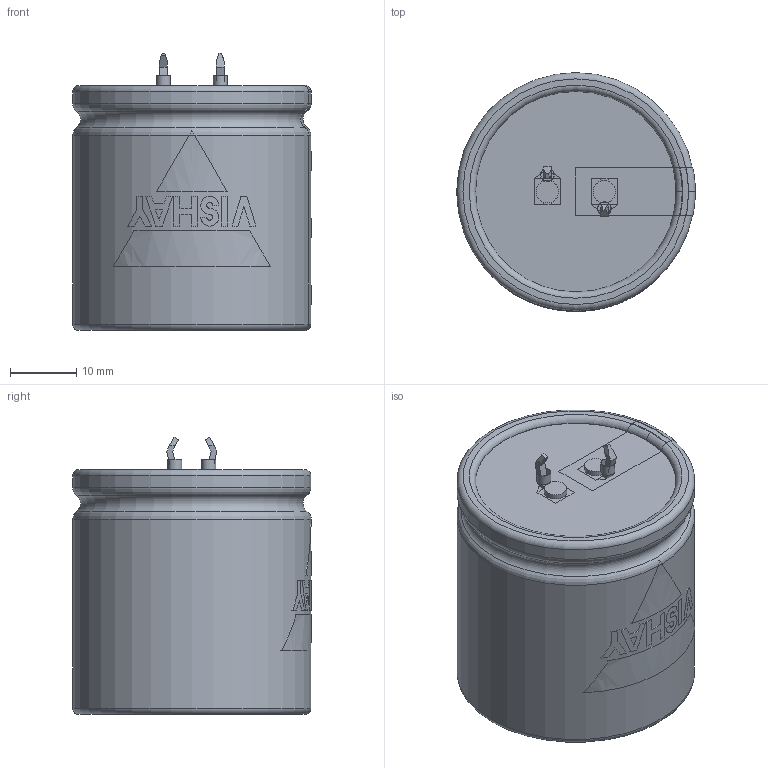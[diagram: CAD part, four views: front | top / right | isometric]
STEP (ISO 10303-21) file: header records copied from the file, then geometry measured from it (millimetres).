
FILE_DESCRIPTION(('FreeCAD Model'),'2;1');
FILE_NAME( 'C:/Users/Gebruiker/Documents/FreeCAD/SnapIn_35x35_2pin_4.0.step', '2020-11-12T20:37:05',('Author'),(''), 'Open CASCADE STEP processor 6.8','FreeCAD','Unknown');
FILE_SCHEMA(('AUTOMOTIVE_DESIGN_CC2 { 1 2 10303 214 -1 1 5 4 }'));
Length unit declared in the file: millimetre
Products named in the file (9): ASSEMBLY; TerminalMin; TerminalPlus; PCBHoles; Disc; BottomInsulation; Can3D; InkMinusBar; InkLogo
Assembly tree (8 placements, depth 2):
  ASSEMBLY
    TerminalMin
    TerminalPlus
    PCBHoles
    Disc
    BottomInsulation
    Can3D
    InkMinusBar
    InkLogo
Bounding box: 36.05 x 36.05 x 41.95 mm (x, y, z)
Volume: 43468.1 mm3; surface area: 16071.1 mm2
Topology: 16 solids, 16 shells, 190 faces, 461 edges, 302 vertices
Faces by surface type: plane 142, cylinder 29, torus 19
Full cylindrical faces by diameter (mm): 2 x2, 2.1 x2, 3.4 x2, 28.8 x2, 30.3 x1, 36 x2
Entity records: 20603 total; most frequent: CARTESIAN_POINT 10252, DIRECTION 1608, ORIENTED_EDGE 922, PCURVE 922, DEFINITIONAL_REPRESENTATION 922, LINE 885, VECTOR 885, EDGE_CURVE 461
